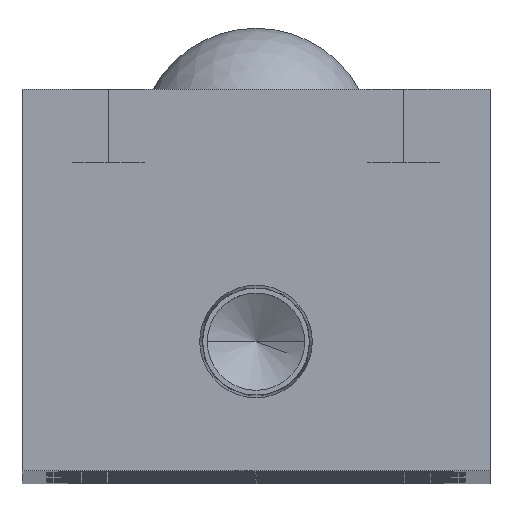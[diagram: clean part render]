
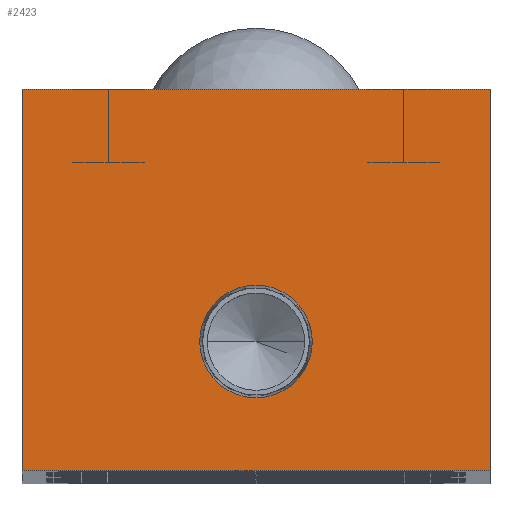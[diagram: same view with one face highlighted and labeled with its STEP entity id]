
A CAD part, top view. The second image highlights one B-rep face of the part: STEP entity #2423.
In plain terms, the highlighted planar face has unit normal (0, 0, 1).
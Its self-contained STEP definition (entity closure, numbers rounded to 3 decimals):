
#10 = DIRECTION ( 'NONE',  ( 0., 1., 0. ) ) ;
#153 = EDGE_CURVE ( 'NONE', #9933, #13241, #2625, .T. ) ;
#291 = AXIS2_PLACEMENT_3D ( 'NONE', #12405, #6045, #13482 ) ;
#421 = CARTESIAN_POINT ( 'NONE',  ( -19., 0., 0. ) ) ;
#680 = EDGE_CURVE ( 'NONE', #10643, #4988, #5808, .T. ) ;
#730 = CIRCLE ( 'NONE', #291, 4.574 ) ;
#776 = LINE ( 'NONE', #12430, #11817 ) ;
#1515 = VERTEX_POINT ( 'NONE', #12709 ) ;
#1812 = AXIS2_PLACEMENT_3D ( 'NONE', #5419, #12870, #6522 ) ;
#2423 = ADVANCED_FACE ( 'NONE', ( #6430, #8922 ), #7098, .F. ) ;
#2625 = LINE ( 'NONE', #6534, #11488 ) ;
#3717 = CARTESIAN_POINT ( 'NONE',  ( 19., 0., 0. ) ) ;
#3912 = CARTESIAN_POINT ( 'NONE',  ( 0., 0., 0. ) ) ;
#4137 = EDGE_CURVE ( 'NONE', #11194, #1515, #776, .T. ) ;
#4691 = CARTESIAN_POINT ( 'NONE',  ( 19., 31., 0. ) ) ;
#4988 = VERTEX_POINT ( 'NONE', #10954 ) ;
#5025 = DIRECTION ( 'NONE',  ( -1., 0., 0. ) ) ;
#5259 = EDGE_LOOP ( 'NONE', ( #12213, #9019 ) ) ;
#5283 = VECTOR ( 'NONE', #10, 1000. ) ;
#5419 = CARTESIAN_POINT ( 'NONE',  ( 0., 10.5, 0. ) ) ;
#5625 = AXIS2_PLACEMENT_3D ( 'NONE', #3912, #13527, #7152 ) ;
#5808 = CIRCLE ( 'NONE', #1812, 4.574 ) ;
#6045 = DIRECTION ( 'NONE',  ( 0., 0., 1. ) ) ;
#6349 = LINE ( 'NONE', #421, #12333 ) ;
#6430 = FACE_BOUND ( 'NONE', #5259, .T. ) ;
#6452 = CARTESIAN_POINT ( 'NONE',  ( 19., 31., 0. ) ) ;
#6522 = DIRECTION ( 'NONE',  ( 1., 0., 0. ) ) ;
#6534 = CARTESIAN_POINT ( 'NONE',  ( 19., 0., 0. ) ) ;
#7098 = PLANE ( 'NONE',  #5625 ) ;
#7152 = DIRECTION ( 'NONE',  ( -1., 0., 0. ) ) ;
#8161 = ORIENTED_EDGE ( 'NONE', *, *, #10447, .T. ) ;
#8290 = ORIENTED_EDGE ( 'NONE', *, *, #4137, .T. ) ;
#8419 = ORIENTED_EDGE ( 'NONE', *, *, #153, .T. ) ;
#8468 = LINE ( 'NONE', #6452, #5283 ) ;
#8620 = DIRECTION ( 'NONE',  ( 1., 0., 0. ) ) ;
#8783 = EDGE_CURVE ( 'NONE', #4988, #10643, #730, .T. ) ;
#8922 = FACE_OUTER_BOUND ( 'NONE', #11268, .T. ) ;
#9007 = DIRECTION ( 'NONE',  ( 0., -1., 0. ) ) ;
#9019 = ORIENTED_EDGE ( 'NONE', *, *, #8783, .F. ) ;
#9740 = CARTESIAN_POINT ( 'NONE',  ( -19., 0., 0. ) ) ;
#9933 = VERTEX_POINT ( 'NONE', #9740 ) ;
#10447 = EDGE_CURVE ( 'NONE', #13241, #11194, #8468, .T. ) ;
#10643 = VERTEX_POINT ( 'NONE', #13217 ) ;
#10954 = CARTESIAN_POINT ( 'NONE',  ( -4.574, 10.5, 0. ) ) ;
#11194 = VERTEX_POINT ( 'NONE', #4691 ) ;
#11268 = EDGE_LOOP ( 'NONE', ( #12917, #8419, #8161, #8290 ) ) ;
#11488 = VECTOR ( 'NONE', #8620, 1000. ) ;
#11817 = VECTOR ( 'NONE', #5025, 1000. ) ;
#12213 = ORIENTED_EDGE ( 'NONE', *, *, #680, .F. ) ;
#12333 = VECTOR ( 'NONE', #9007, 1000. ) ;
#12405 = CARTESIAN_POINT ( 'NONE',  ( 0., 10.5, 0. ) ) ;
#12430 = CARTESIAN_POINT ( 'NONE',  ( -19., 31., 0. ) ) ;
#12709 = CARTESIAN_POINT ( 'NONE',  ( -19., 31., 0. ) ) ;
#12870 = DIRECTION ( 'NONE',  ( 0., 0., 1. ) ) ;
#12917 = ORIENTED_EDGE ( 'NONE', *, *, #13754, .T. ) ;
#13217 = CARTESIAN_POINT ( 'NONE',  ( 4.574, 10.5, 0. ) ) ;
#13241 = VERTEX_POINT ( 'NONE', #3717 ) ;
#13482 = DIRECTION ( 'NONE',  ( 1., 0., 0. ) ) ;
#13527 = DIRECTION ( 'NONE',  ( 0., 0., -1. ) ) ;
#13754 = EDGE_CURVE ( 'NONE', #1515, #9933, #6349, .T. ) ;
